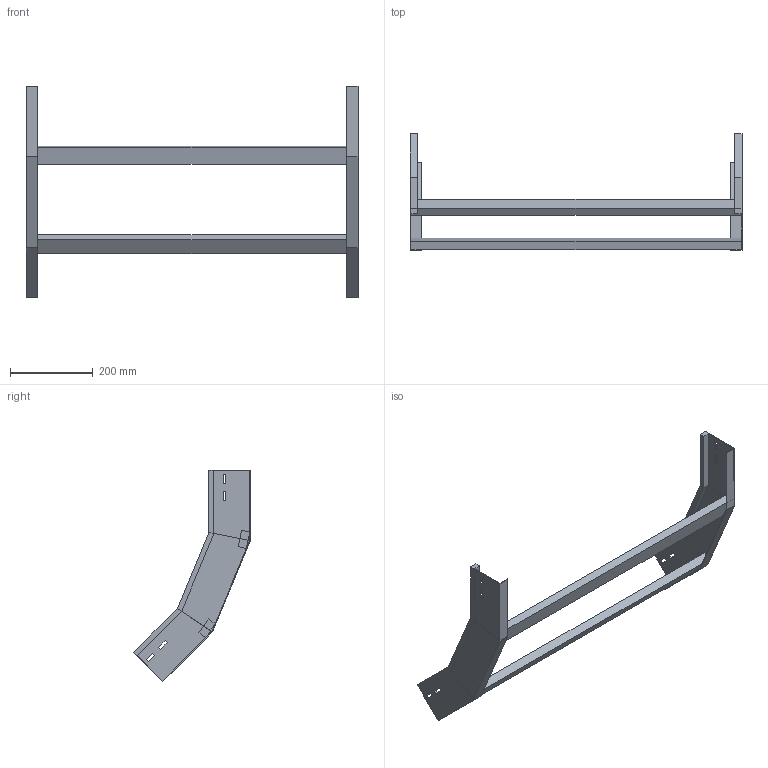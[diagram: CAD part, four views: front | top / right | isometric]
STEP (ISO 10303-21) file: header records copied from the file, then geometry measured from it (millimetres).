
FILE_DESCRIPTION (( 'STEP AP214' ), '1' );
FILE_NAME ('B2X31B5D800XX.step', '2025-03-20T10:06:07', ( '' ), ( '' ), 'SwSTEP 2.0', 'SolidWorks 2023', '' );
FILE_SCHEMA (( 'AUTOMOTIVE_DESIGN' ));
Length unit declared in the file: millimetre
Products named in the file (3): LONGH.SALITA_45°_H100_R500; TRAVERSINO_800; B2X31B5D800XX
Assembly tree (4 placements, depth 2):
  B2X31B5D800XX
    LONGH.SALITA_45°_H100_R500  x2
    TRAVERSINO_800  x2
Bounding box: 800 x 281.75 x 509.5 mm (x, y, z)
Volume: 1752676.9 mm3; surface area: 505222.2 mm2
Topology: 4 solids, 4 shells, 96 faces, 232 edges, 144 vertices
Faces by surface type: plane 96
Entity records: 1472 total; most frequent: CARTESIAN_POINT 243, ORIENTED_EDGE 232, DIRECTION 226, LINE 116, EDGE_CURVE 116, VECTOR 116, VERTEX_POINT 72, EDGE_LOOP 56
